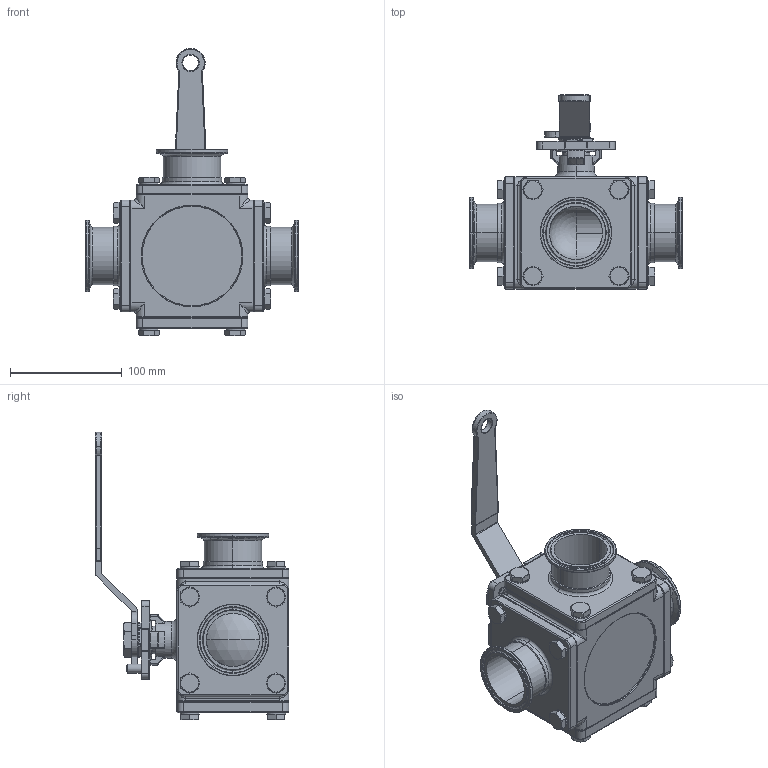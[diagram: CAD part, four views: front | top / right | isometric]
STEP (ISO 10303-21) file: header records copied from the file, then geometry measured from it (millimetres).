
FILE_DESCRIPTION (( 'STEP AP203' ), '1' );
FILE_NAME ('EG93CCC-62.0.STEP', '2019-07-02T02:26:47', ( '' ), ( '' ), 'SwSTEP 2.0', 'SolidWorks 2014', '' );
FILE_SCHEMA (( 'CONFIG_CONTROL_DESIGN' ));
Length unit declared in the file: millimetre
Products named in the file (24): 16.BOLT2.0; 13.STEM1.5-2.0; 8.STEM PACKING1.5-2.0; 1.3WAY-BODY2.0; 22.SEAT-L-2.0; 9.RING1.5-2.0; 2.3WAY-CAP-C-2.0; 17.LOCKING TAB1.5-2.0; 7.O-RING1.5-2.0; 5.GASKET2.0; 15.SPRING WASHER2.0-2.5; 6.THRUST WASHER1.5-2.0; 22.SEAT-R-2.0; 19.3WAY-CAP2.0; 11.STOP PIN1.5-2.0; 12.3WAY-NUT1.5-2.0; 14.HANDLE1.5-2.0; 21.PLAIN WASHER1.5-2.0; 20.SEAT BACK2.0; 3.3WAY-BALL-2.0-L; 10.BEVEL WASHER1.5-2.0; 18.THINNER NUT1.5-2.0; 4.SEAT1-2.0; EG93CCC-62.0
Assembly tree (58 placements, depth 2):
  EG93CCC-62.0
    1.3WAY-BODY2.0
    13.STEM1.5-2.0
    7.O-RING1.5-2.0
    6.THRUST WASHER1.5-2.0
    22.SEAT-L-2.0  x2
    22.SEAT-R-2.0
    4.SEAT1-2.0
    20.SEAT BACK2.0
    19.3WAY-CAP2.0
    2.3WAY-CAP-C-2.0  x3
    5.GASKET2.0  x2
    15.SPRING WASHER2.0-2.5  x16
    16.BOLT2.0  x16
    8.STEM PACKING1.5-2.0
    9.RING1.5-2.0
    10.BEVEL WASHER1.5-2.0  x2
    17.LOCKING TAB1.5-2.0
    18.THINNER NUT1.5-2.0
    21.PLAIN WASHER1.5-2.0
    14.HANDLE1.5-2.0
    12.3WAY-NUT1.5-2.0
    11.STOP PIN1.5-2.0
    3.3WAY-BALL-2.0-L
Bounding box: 190 x 173.1 x 256.7 mm (x, y, z)
Volume: 1434810.6 mm3; surface area: 409330 mm2
Topology: 59 solids, 59 shells, 1538 faces, 3446 edges, 2022 vertices
Faces by surface type: cylinder 564, plane 398, cone 252, torus 227, sphere 59, bspline 38
Entity records: 33309 total; most frequent: CARTESIAN_POINT 7090, DIRECTION 5307, ORIENTED_EDGE 4448, AXIS2_PLACEMENT_3D 2255, EDGE_CURVE 2224, VERTEX_POINT 1312, CIRCLE 1248, EDGE_LOOP 1092
